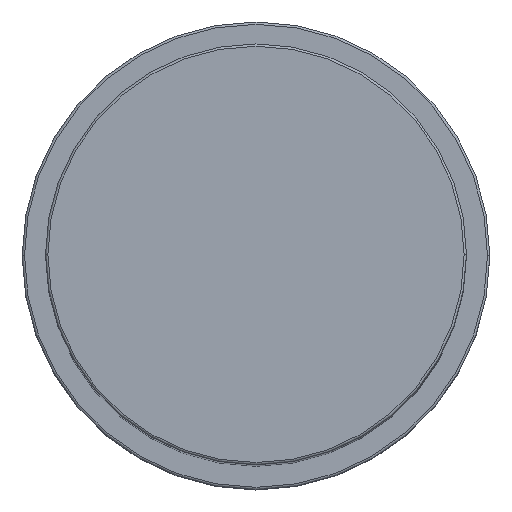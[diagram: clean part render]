
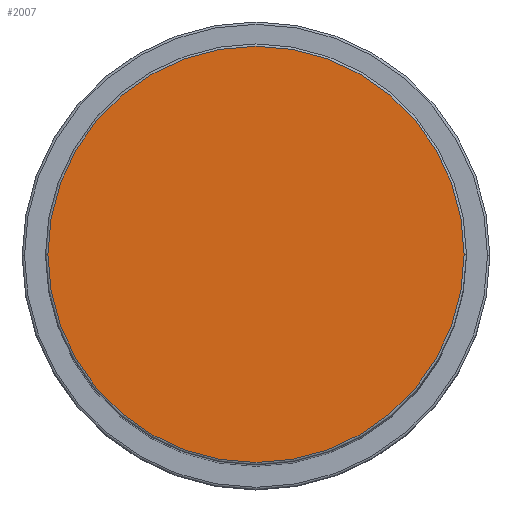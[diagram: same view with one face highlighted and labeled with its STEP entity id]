
A CAD part, top view. The second image highlights one B-rep face of the part: STEP entity #2007.
In plain terms, the highlighted planar face has unit normal (0, 0, 1).
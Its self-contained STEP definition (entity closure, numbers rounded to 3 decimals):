
#733 = VERTEX_POINT ( 'NONE', #2990 ) ;
#1325 = CARTESIAN_POINT ( 'NONE',  ( 0., 0., 199. ) ) ;
#1407 = CARTESIAN_POINT ( 'NONE',  ( 0., 0., 199. ) ) ;
#1628 = CIRCLE ( 'NONE', #2697, 44.5 ) ;
#1767 = CARTESIAN_POINT ( 'NONE',  ( 0., 0., 199. ) ) ;
#1941 = CARTESIAN_POINT ( 'NONE',  ( -44.5, 0., 199. ) ) ;
#2007 = ADVANCED_FACE ( 'NONE', ( #4804 ), #4152, .T. ) ;
#2457 = DIRECTION ( 'NONE',  ( 1., 0., 0. ) ) ;
#2505 = DIRECTION ( 'NONE',  ( 0., 0., 1. ) ) ;
#2537 = DIRECTION ( 'NONE',  ( 0., 0., 1. ) ) ;
#2697 = AXIS2_PLACEMENT_3D ( 'NONE', #1767, #3461, #5735 ) ;
#2846 = EDGE_CURVE ( 'NONE', #5333, #733, #6681, .T. ) ;
#2990 = CARTESIAN_POINT ( 'NONE',  ( 44.5, 0., 199. ) ) ;
#3461 = DIRECTION ( 'NONE',  ( 0., 0., 1. ) ) ;
#3467 = ORIENTED_EDGE ( 'NONE', *, *, #6039, .T. ) ;
#4152 = PLANE ( 'NONE',  #5361 ) ;
#4256 = AXIS2_PLACEMENT_3D ( 'NONE', #1407, #2537, #6471 ) ;
#4804 = FACE_OUTER_BOUND ( 'NONE', #6122, .T. ) ;
#5333 = VERTEX_POINT ( 'NONE', #1941 ) ;
#5361 = AXIS2_PLACEMENT_3D ( 'NONE', #1325, #2505, #2457 ) ;
#5735 = DIRECTION ( 'NONE',  ( 1., 0., 0. ) ) ;
#6039 = EDGE_CURVE ( 'NONE', #733, #5333, #1628, .T. ) ;
#6047 = ORIENTED_EDGE ( 'NONE', *, *, #2846, .T. ) ;
#6122 = EDGE_LOOP ( 'NONE', ( #3467, #6047 ) ) ;
#6471 = DIRECTION ( 'NONE',  ( 1., 0., 0. ) ) ;
#6681 = CIRCLE ( 'NONE', #4256, 44.5 ) ;
